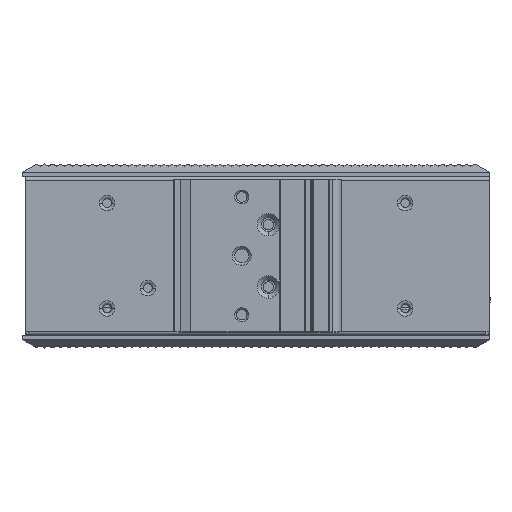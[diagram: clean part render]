
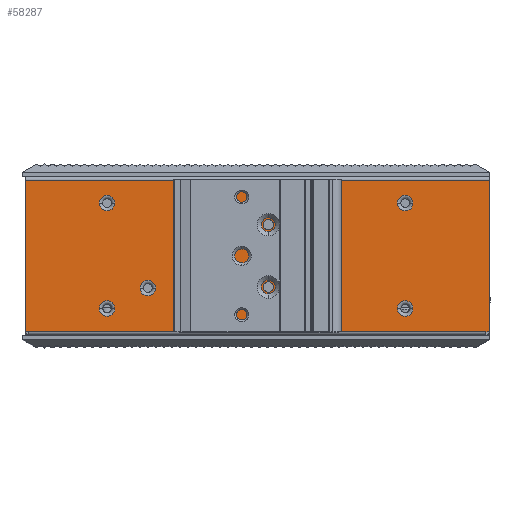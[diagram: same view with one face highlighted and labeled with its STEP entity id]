
A CAD part, top view. The second image highlights one B-rep face of the part: STEP entity #58287.
In plain terms, the highlighted planar face has unit normal (0, 0, 1).
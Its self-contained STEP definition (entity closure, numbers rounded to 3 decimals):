
#46256=DIRECTION('',(0.,-1.,0.));
#46257=VECTOR('',#46256,43.8);
#46258=CARTESIAN_POINT('',(-67.34,43.8,46.3));
#46259=LINE('',#46258,#46257);
#47092=DIRECTION('',(1.,0.,0.));
#47093=VECTOR('',#47092,132.);
#47094=CARTESIAN_POINT('',(-66.34,0.,46.3));
#47095=LINE('',#47094,#47093);
#47100=DIRECTION('',(-1.,0.,0.));
#47101=VECTOR('',#47100,1.);
#47102=CARTESIAN_POINT('',(-66.34,0.,46.3));
#47103=LINE('',#47102,#47101);
#47104=DIRECTION('',(0.,-1.,0.));
#47105=VECTOR('',#47104,43.8);
#47106=CARTESIAN_POINT('',(66.66,43.8,46.3));
#47107=LINE('',#47106,#47105);
#47108=DIRECTION('',(-1.,0.,0.));
#47109=VECTOR('',#47108,1.);
#47110=CARTESIAN_POINT('',(66.66,0.,46.3));
#47111=LINE('',#47110,#47109);
#47112=CARTESIAN_POINT('',(2.83,30.9,46.3));
#47113=DIRECTION('',(0.,0.,1.));
#47114=DIRECTION('',(1.,0.,0.));
#47115=AXIS2_PLACEMENT_3D('',#47112,#47113,#47114);
#47117=CARTESIAN_POINT('',(2.83,30.9,46.3));
#47118=DIRECTION('',(0.,0.,1.));
#47119=DIRECTION('',(-1.,0.,0.));
#47120=AXIS2_PLACEMENT_3D('',#47117,#47118,#47119);
#47122=CARTESIAN_POINT('',(2.83,12.9,46.3));
#47123=DIRECTION('',(0.,0.,1.));
#47124=DIRECTION('',(1.,0.,0.));
#47125=AXIS2_PLACEMENT_3D('',#47122,#47123,#47124);
#47127=CARTESIAN_POINT('',(2.83,12.9,46.3));
#47128=DIRECTION('',(0.,0.,1.));
#47129=DIRECTION('',(-1.,0.,0.));
#47130=AXIS2_PLACEMENT_3D('',#47127,#47128,#47129);
#47132=CARTESIAN_POINT('',(42.36,6.65,46.3));
#47133=DIRECTION('',(0.,0.,1.));
#47134=DIRECTION('',(-1.,0.,0.));
#47135=AXIS2_PLACEMENT_3D('',#47132,#47133,#47134);
#47137=CARTESIAN_POINT('',(42.36,6.65,46.3));
#47138=DIRECTION('',(0.,0.,1.));
#47139=DIRECTION('',(1.,0.,0.));
#47140=AXIS2_PLACEMENT_3D('',#47137,#47138,#47139);
#47142=CARTESIAN_POINT('',(42.36,37.15,46.3));
#47143=DIRECTION('',(0.,0.,1.));
#47144=DIRECTION('',(-1.,0.,0.));
#47145=AXIS2_PLACEMENT_3D('',#47142,#47143,#47144);
#47147=CARTESIAN_POINT('',(42.36,37.15,46.3));
#47148=DIRECTION('',(0.,0.,1.));
#47149=DIRECTION('',(1.,0.,0.));
#47150=AXIS2_PLACEMENT_3D('',#47147,#47148,#47149);
#47152=CARTESIAN_POINT('',(-43.78,6.65,46.3));
#47153=DIRECTION('',(0.,0.,1.));
#47154=DIRECTION('',(-1.,0.,0.));
#47155=AXIS2_PLACEMENT_3D('',#47152,#47153,#47154);
#47157=CARTESIAN_POINT('',(-43.78,6.65,46.3));
#47158=DIRECTION('',(0.,0.,1.));
#47159=DIRECTION('',(1.,0.,0.));
#47160=AXIS2_PLACEMENT_3D('',#47157,#47158,#47159);
#47162=CARTESIAN_POINT('',(-43.78,37.15,46.3));
#47163=DIRECTION('',(0.,0.,1.));
#47164=DIRECTION('',(-1.,0.,0.));
#47165=AXIS2_PLACEMENT_3D('',#47162,#47163,#47164);
#47167=CARTESIAN_POINT('',(-43.78,37.15,46.3));
#47168=DIRECTION('',(0.,0.,1.));
#47169=DIRECTION('',(1.,0.,0.));
#47170=AXIS2_PLACEMENT_3D('',#47167,#47168,#47169);
#47172=CARTESIAN_POINT('',(-32.,12.6,46.3));
#47173=DIRECTION('',(0.,0.,1.));
#47174=DIRECTION('',(-1.,0.,0.));
#47175=AXIS2_PLACEMENT_3D('',#47172,#47173,#47174);
#47177=CARTESIAN_POINT('',(-32.,12.6,46.3));
#47178=DIRECTION('',(0.,0.,1.));
#47179=DIRECTION('',(1.,0.,0.));
#47180=AXIS2_PLACEMENT_3D('',#47177,#47178,#47179);
#47186=DIRECTION('',(-1.,0.,0.));
#47187=VECTOR('',#47186,134.);
#47188=CARTESIAN_POINT('',(66.66,43.8,46.3));
#47189=LINE('',#47188,#47187);
#53624=CARTESIAN_POINT('',(-66.34,0.,46.3));
#53625=VERTEX_POINT('',#53624);
#53626=CARTESIAN_POINT('',(-67.34,0.,46.3));
#53627=VERTEX_POINT('',#53626);
#53646=CARTESIAN_POINT('',(66.66,43.8,46.3));
#53647=VERTEX_POINT('',#53646);
#53648=CARTESIAN_POINT('',(66.66,0.,46.3));
#53649=VERTEX_POINT('',#53648);
#53650=CARTESIAN_POINT('',(65.66,0.,46.3));
#53651=VERTEX_POINT('',#53650);
#54624=CARTESIAN_POINT('',(-67.34,43.8,46.3));
#54625=VERTEX_POINT('',#54624);
#54678=CARTESIAN_POINT('',(4.33,30.9,46.3));
#54680=VERTEX_POINT('',#54678);
#54683=CARTESIAN_POINT('',(1.33,30.9,46.3));
#54685=VERTEX_POINT('',#54683);
#54686=CARTESIAN_POINT('',(4.33,12.9,46.3));
#54688=VERTEX_POINT('',#54686);
#54691=CARTESIAN_POINT('',(1.33,12.9,46.3));
#54693=VERTEX_POINT('',#54691);
#54695=CARTESIAN_POINT('',(40.11,6.65,46.3));
#54697=VERTEX_POINT('',#54695);
#54698=CARTESIAN_POINT('',(44.61,6.65,46.3));
#54700=VERTEX_POINT('',#54698);
#54715=CARTESIAN_POINT('',(40.11,37.15,46.3));
#54717=VERTEX_POINT('',#54715);
#54718=CARTESIAN_POINT('',(44.61,37.15,46.3));
#54720=VERTEX_POINT('',#54718);
#54735=CARTESIAN_POINT('',(-46.03,6.65,46.3));
#54737=VERTEX_POINT('',#54735);
#54738=CARTESIAN_POINT('',(-41.53,6.65,46.3));
#54740=VERTEX_POINT('',#54738);
#54755=CARTESIAN_POINT('',(-46.03,37.15,46.3));
#54757=VERTEX_POINT('',#54755);
#54758=CARTESIAN_POINT('',(-41.53,37.15,46.3));
#54760=VERTEX_POINT('',#54758);
#54775=CARTESIAN_POINT('',(-34.25,12.6,46.3));
#54777=VERTEX_POINT('',#54775);
#54778=CARTESIAN_POINT('',(-29.75,12.6,46.3));
#54780=VERTEX_POINT('',#54778);
#58231=CARTESIAN_POINT('',(-0.34,21.9,46.3));
#58232=DIRECTION('',(0.,0.,1.));
#58233=DIRECTION('',(-1.,0.,0.));
#58234=AXIS2_PLACEMENT_3D('',#58231,#58232,#58233);
#58235=PLANE('',#58234);
#58236=ORIENTED_EDGE('',*,*,#58224,.F.);
#58237=ORIENTED_EDGE('',*,*,#56681,.T.);
#58238=ORIENTED_EDGE('',*,*,#56695,.F.);
#58240=ORIENTED_EDGE('',*,*,#58239,.F.);
#58241=ORIENTED_EDGE('',*,*,#56820,.T.);
#58242=ORIENTED_EDGE('',*,*,#56833,.T.);
#58243=EDGE_LOOP('',(#58236,#58237,#58238,#58240,#58241,#58242));
#58244=FACE_OUTER_BOUND('',#58243,.F.);
#58246=ORIENTED_EDGE('',*,*,#58245,.T.);
#58248=ORIENTED_EDGE('',*,*,#58247,.T.);
#58249=EDGE_LOOP('',(#58246,#58248));
#58250=FACE_BOUND('',#58249,.F.);
#58252=ORIENTED_EDGE('',*,*,#58251,.T.);
#58254=ORIENTED_EDGE('',*,*,#58253,.T.);
#58255=EDGE_LOOP('',(#58252,#58254));
#58256=FACE_BOUND('',#58255,.F.);
#58258=ORIENTED_EDGE('',*,*,#58257,.T.);
#58260=ORIENTED_EDGE('',*,*,#58259,.T.);
#58261=EDGE_LOOP('',(#58258,#58260));
#58262=FACE_BOUND('',#58261,.F.);
#58264=ORIENTED_EDGE('',*,*,#58263,.T.);
#58266=ORIENTED_EDGE('',*,*,#58265,.T.);
#58267=EDGE_LOOP('',(#58264,#58266));
#58268=FACE_BOUND('',#58267,.F.);
#58270=ORIENTED_EDGE('',*,*,#58269,.T.);
#58272=ORIENTED_EDGE('',*,*,#58271,.T.);
#58273=EDGE_LOOP('',(#58270,#58272));
#58274=FACE_BOUND('',#58273,.F.);
#58276=ORIENTED_EDGE('',*,*,#58275,.T.);
#58278=ORIENTED_EDGE('',*,*,#58277,.T.);
#58279=EDGE_LOOP('',(#58276,#58278));
#58280=FACE_BOUND('',#58279,.F.);
#58282=ORIENTED_EDGE('',*,*,#58281,.T.);
#58284=ORIENTED_EDGE('',*,*,#58283,.T.);
#58285=EDGE_LOOP('',(#58282,#58284));
#58286=FACE_BOUND('',#58285,.F.);
#58287=ADVANCED_FACE('',(#58244,#58250,#58256,#58262,#58268,#58274,#58280,
#58286),#58235,.T.);
#47116=CIRCLE('',#47115,1.5);
#47121=CIRCLE('',#47120,1.5);
#47126=CIRCLE('',#47125,1.5);
#47131=CIRCLE('',#47130,1.5);
#47136=CIRCLE('',#47135,2.25);
#47141=CIRCLE('',#47140,2.25);
#47146=CIRCLE('',#47145,2.25);
#47151=CIRCLE('',#47150,2.25);
#47156=CIRCLE('',#47155,2.25);
#47161=CIRCLE('',#47160,2.25);
#47166=CIRCLE('',#47165,2.25);
#47171=CIRCLE('',#47170,2.25);
#47176=CIRCLE('',#47175,2.25);
#47181=CIRCLE('',#47180,2.25);
#56681=EDGE_CURVE('',#53625,#53627,#47103,.T.);
#56695=EDGE_CURVE('',#54625,#53627,#46259,.T.);
#56820=EDGE_CURVE('',#53647,#53649,#47107,.T.);
#56833=EDGE_CURVE('',#53649,#53651,#47111,.T.);
#58224=EDGE_CURVE('',#53625,#53651,#47095,.T.);
#58239=EDGE_CURVE('',#53647,#54625,#47189,.T.);
#58245=EDGE_CURVE('',#54680,#54685,#47116,.T.);
#58247=EDGE_CURVE('',#54685,#54680,#47121,.T.);
#58251=EDGE_CURVE('',#54688,#54693,#47126,.T.);
#58253=EDGE_CURVE('',#54693,#54688,#47131,.T.);
#58257=EDGE_CURVE('',#54697,#54700,#47136,.T.);
#58259=EDGE_CURVE('',#54700,#54697,#47141,.T.);
#58263=EDGE_CURVE('',#54717,#54720,#47146,.T.);
#58265=EDGE_CURVE('',#54720,#54717,#47151,.T.);
#58269=EDGE_CURVE('',#54737,#54740,#47156,.T.);
#58271=EDGE_CURVE('',#54740,#54737,#47161,.T.);
#58275=EDGE_CURVE('',#54757,#54760,#47166,.T.);
#58277=EDGE_CURVE('',#54760,#54757,#47171,.T.);
#58281=EDGE_CURVE('',#54777,#54780,#47176,.T.);
#58283=EDGE_CURVE('',#54780,#54777,#47181,.T.);
